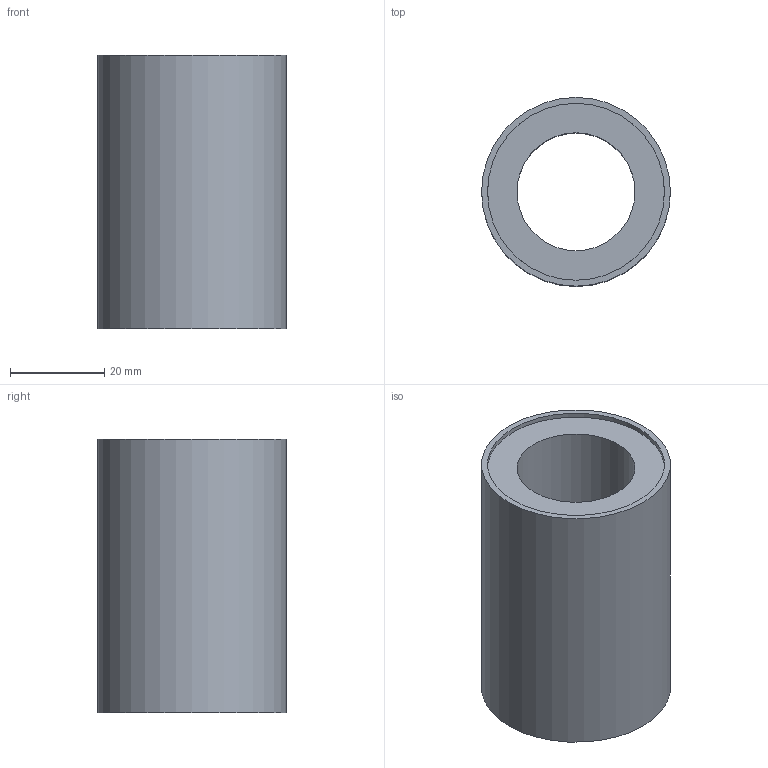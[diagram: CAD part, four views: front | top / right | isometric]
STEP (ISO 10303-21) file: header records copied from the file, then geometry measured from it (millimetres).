
FILE_DESCRIPTION(/* description */ (''),/* implementation_level */ '2;1');
FILE_NAME(/* name */ 'W:\WEBOVKY\Knecht\SBE-UU\SBE-25-UU\SBE-25-UU.stp',/* time_stamp */ '2021-03-08T13:13:58+01:00',/* author */ ('mkorenek'),/* organization */ (''),/* preprocessor_version */ 'ST-DEVELOPER v18.1',/* originating_system */ 'Autodesk Inventor 2021',/* authorisation */ '');
FILE_SCHEMA (('AUTOMOTIVE_DESIGN { 1 0 10303 214 3 1 1 }'));
Length unit declared in the file: millimetre
Products named in the file (3): LME-25-UU; vnějšek pouzdra; vnitřek pouzdra
Assembly tree (2 placements, depth 2):
  LME-25-UU
    vnějšek pouzdra
    vnitřek pouzdra
Bounding box: 40 x 40 x 58 mm (x, y, z)
Volume: 43154.1 mm3; surface area: 26645.6 mm2
Topology: 2 solids, 2 shells, 8 faces, 16 edges, 12 vertices
Faces by surface type: plane 4, cylinder 4
Full cylindrical faces by diameter (mm): 25 x1, 37.49 x1, 37.5 x1, 40 x1
Entity records: 359 total; most frequent: DIRECTION 54, CARTESIAN_POINT 41, ORIENTED_EDGE 32, AXIS2_PLACEMENT_3D 25, EDGE_CURVE 16, EDGE_LOOP 12, CIRCLE 12, VERTEX_POINT 12
